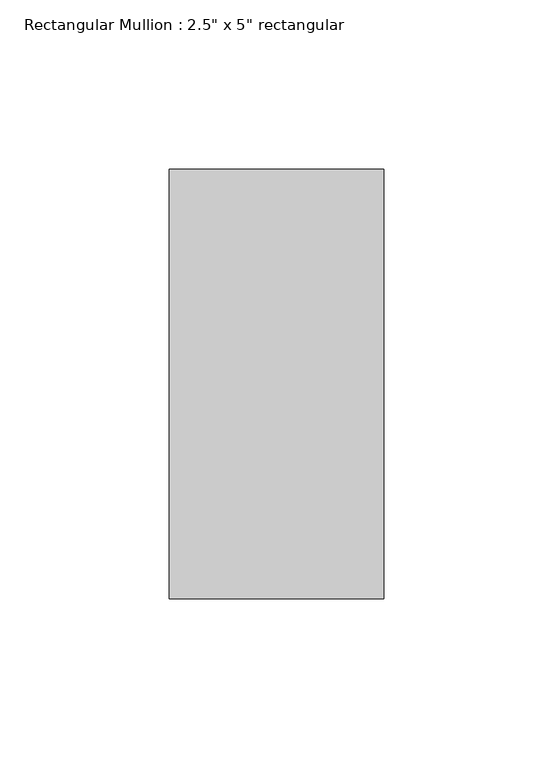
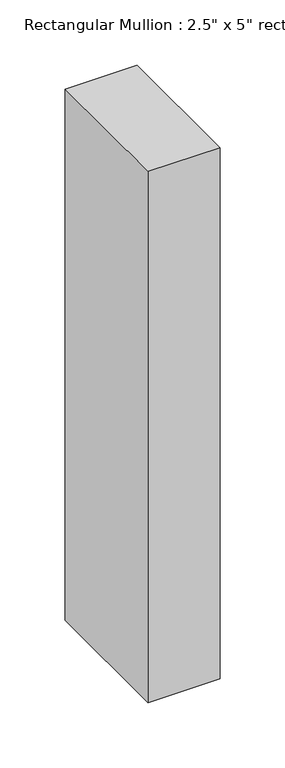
"""IFC4 building model written with IfcOpenShell, lengths in millimetres: member geometry."""

import ifcopenshell
import ifcopenshell.guid

model = None  # the IFC model being written
_history = None  # IfcOwnerHistory: only IFC2X3 demands one
_inside = {}  # id of a spatial element -> (the spatial element, [elements in it])
_under = {}  # id of a project, library or spatial element -> (it, [spatial elements below it])
_declared = {}  # id of a project -> (the project, [libraries it declares])
_typed = {}  # id of a type object -> (the type object, [elements of that type])
_made_of = {}  # id of a material, layer set ... -> (it, [elements and type objects made of it])


def new_model(schema):
    """Start an empty IFC model of exactly this schema.

    Asked for "IFC4X3", IfcOpenShell would pick the latest addendum, in which some entities
    have other attributes; the version numbers below select the first issue.
    IFC2X3 requires an IfcOwnerHistory on every rooted entity: one is made here for all.
    """
    global model, _history
    if schema == "IFC4X3":
        model = ifcopenshell.file(schema_version=(4, 3, 0, 0))
    else:
        model = ifcopenshell.file(schema=schema)
    _inside.clear()
    _under.clear()
    _declared.clear()
    _typed.clear()
    _made_of.clear()
    _history = None
    if model.schema == "IFC2X3":
        org = make("IfcOrganization", Name="unknown")
        user = make(
            "IfcPersonAndOrganization",
            ThePerson=make("IfcPerson", FamilyName="unknown"),
            TheOrganization=org,
        )
        app = make(
            "IfcApplication",
            ApplicationDeveloper=org,
            Version="unknown",
            ApplicationFullName="unknown",
            ApplicationIdentifier="unknown",
        )
        _history = make(
            "IfcOwnerHistory",
            OwningUser=user,
            OwningApplication=app,
            ChangeAction="ADDED",
            CreationDate=0,
        )
    return model


def make(cls, **values):
    """One entity of the class cls with the attributes given. An attribute that is None is left unset."""
    return model.create_entity(
        cls, **{name: value for name, value in values.items() if value is not None}
    )


def rooted(cls, **values):
    """An entity with a GlobalId (a new one), such as an element, a storey or a relation."""
    return make(cls, GlobalId=ifcopenshell.guid.new(), OwnerHistory=_history, **values)


def si_unit(unit_type, name, prefix=None):
    """IfcSIUnit, for example si_unit("LENGTHUNIT", "METRE", prefix="MILLI")."""
    return make("IfcSIUnit", UnitType=unit_type, Prefix=prefix, Name=name)


def assignment(units):
    """IfcUnitAssignment: the units of a project."""
    return None if units is None else make("IfcUnitAssignment", Units=units)


def point(xyz):
    """IfcCartesianPoint."""
    return None if xyz is None else make("IfcCartesianPoint", Coordinates=xyz)


def direction(xyz):
    """IfcDirection."""
    return None if xyz is None else make("IfcDirection", DirectionRatios=xyz)


def frame(location, z_axis=None, x_axis=None):
    """IfcAxis2Placement3D, a coordinate frame: its origin and axes. An axis left out is left unset."""
    return make(
        "IfcAxis2Placement3D",
        Location=point(location),
        Axis=direction(z_axis),
        RefDirection=direction(x_axis),
    )


def origin():
    """The frame at (0, 0, 0) with its axes left unset."""
    return frame((0.0, 0.0, 0.0))


def place(relative_to, where):
    """IfcLocalPlacement: puts the frame where relative to a parent placement (None: the world)."""
    return make(
        "IfcLocalPlacement", PlacementRelTo=relative_to, RelativePlacement=where
    )


def context(
    kind, dimensions, precision=None, world=None, true_north=None, identifier=None
):
    """IfcGeometricRepresentationContext, for example the 3D "Model" context."""
    return make(
        "IfcGeometricRepresentationContext",
        ContextIdentifier=identifier,
        ContextType=kind,
        CoordinateSpaceDimension=dimensions,
        Precision=precision,
        WorldCoordinateSystem=world,
        TrueNorth=true_north,
    )


def project(units=None, contexts=None):
    """IfcProject with its units and contexts."""
    return rooted(
        "IfcProject",
        Name="project",
        RepresentationContexts=contexts,
        UnitsInContext=assignment(units),
    )


def spatial(cls, under=None, at=None, **own):
    """A site, building, storey or space (cls), placed at a placement, below another one or the project."""
    s = rooted(cls, ObjectPlacement=at, **own)
    if under is not None:
        _under.setdefault(under.id(), (under, []))[1].append(s)
    return s


def polyline(points):
    """IfcPolyline through the points."""
    return make("IfcPolyline", Points=[point(p) for p in points])


def outline(outer, holes=None, kind="AREA"):
    """IfcArbitraryClosedProfileDef: a profile drawn as a closed curve; with holes, ...WithVoids."""
    if holes is None:
        return make("IfcArbitraryClosedProfileDef", ProfileType=kind, OuterCurve=outer)
    return make(
        "IfcArbitraryProfileDefWithVoids",
        ProfileType=kind,
        OuterCurve=outer,
        InnerCurves=holes,
    )


def extrude(swept, where, along, depth):
    """IfcExtrudedAreaSolid: the profile swept, set in the frame where, extruded along a direction by depth."""
    return make(
        "IfcExtrudedAreaSolid",
        SweptArea=swept,
        Position=where,
        ExtrudedDirection=direction(along),
        Depth=depth,
    )


def shape(context_of_items, identifier, shape_type, items):
    """IfcShapeRepresentation: the items that make up one representation, for example the "Body"."""
    return make(
        "IfcShapeRepresentation",
        ContextOfItems=context_of_items,
        RepresentationIdentifier=identifier,
        RepresentationType=shape_type,
        Items=items,
    )


def source(mapping_origin, context_of_items, identifier, shape_type, items):
    """IfcRepresentationMap: a shape defined once, which mapped items show again and again."""
    return make(
        "IfcRepresentationMap",
        MappingOrigin=mapping_origin,
        MappedRepresentation=shape(context_of_items, identifier, shape_type, items),
    )


def transform(
    local_origin,
    x_axis=None,
    y_axis=None,
    z_axis=None,
    scale=None,
    scale2=None,
    scale3=None,
    uniform=True,
):
    """IfcCartesianTransformationOperator3D, or its non-uniform kind. x_axis, y_axis, z_axis: its Axis1, 2, 3."""
    if uniform:
        return make(
            "IfcCartesianTransformationOperator3D",
            Axis1=direction(x_axis),
            Axis2=direction(y_axis),
            LocalOrigin=point(local_origin),
            Scale=scale,
            Axis3=direction(z_axis),
        )
    return make(
        "IfcCartesianTransformationOperator3DnonUniform",
        Axis1=direction(x_axis),
        Axis2=direction(y_axis),
        LocalOrigin=point(local_origin),
        Scale=scale,
        Axis3=direction(z_axis),
        Scale2=scale2,
        Scale3=scale3,
    )


def mapped(mapping_source, mapping_target):
    """IfcMappedItem: shows the shape of a source again, moved by a transform."""
    return make(
        "IfcMappedItem", MappingSource=mapping_source, MappingTarget=mapping_target
    )


def made_of(thing, what):
    """Note that an element or type object is made of a material, layer set ...; save() writes the relation."""
    if what is not None:
        _made_of.setdefault(what.id(), (what, []))[1].append(thing)
    return thing


def element(
    cls,
    number,
    at=None,
    inside=None,
    cuts=None,
    type_object=None,
    material=None,
    context=None,
    identifier="Body",
    shape_type=None,
    held_by="IfcProductDefinitionShape",
    body=None,
    shapes=None,
    **own,
):
    """One element of the class cls, such as IfcWall. Its Tag is "e" and its number.

    at: its placement. inside: the storey or other place that contains it. cuts: it is an
    opening in that element (IfcRelVoidsElement). A single representation is given by context,
    identifier, shape_type and body (its items); several are given by shapes. held_by: the class
    of the entity that holds the representations. save() writes the other relations.
    """
    e = rooted(cls, Tag="e%d" % number, ObjectPlacement=at, **own)
    if body is not None:
        shapes = [shape(context, identifier, shape_type, body)]
    if shapes is not None:
        e.Representation = make(held_by, Representations=shapes)
    if inside is not None:
        _inside.setdefault(inside.id(), (inside, []))[1].append(e)
    if cuts is not None:
        rooted(
            "IfcRelVoidsElement", RelatingBuildingElement=cuts, RelatedOpeningElement=e
        )
    if type_object is not None:
        _typed.setdefault(type_object.id(), (type_object, []))[1].append(e)
    return made_of(e, material)


def aggregate(whole, parts):
    """IfcRelAggregates: a whole, such as a stair, and the parts it consists of."""
    return rooted("IfcRelAggregates", RelatingObject=whole, RelatedObjects=parts)


def save(model, path):
    """Write the relations noted so far, then the file.

    IfcRelAggregates (storeys below a building ...), IfcRelContainedInSpatialStructure (elements
    in a storey), IfcRelDefinesByType, IfcRelAssociatesMaterial and IfcRelDeclares: one each for
    every whole, place, type object, material and project.
    """
    for whole, parts in _under.values():
        aggregate(whole, parts)
    for where, things in _inside.values():
        rooted(
            "IfcRelContainedInSpatialStructure",
            RelatedElements=things,
            RelatingStructure=where,
        )
    for kind, things in _typed.values():
        rooted("IfcRelDefinesByType", RelatedObjects=things, RelatingType=kind)
    for what, things in _made_of.values():
        rooted("IfcRelAssociatesMaterial", RelatedObjects=things, RelatingMaterial=what)
    for by, libraries in _declared.values():
        rooted("IfcRelDeclares", RelatingContext=by, RelatedDefinitions=libraries)
    model.write(path)


def member_00b05e59(model_context):
    return source(origin(), model_context, "Body", "SweptSolid", [
        extrude(outline(polyline([(0.0, 63.5), (0.0, -63.5), (-63.5, -63.5), (-63.5, 63.5), (0.0, 63.5)])), frame((0.0, 0.0, -496.6452541), z_axis=(0.0, 0.0, 1.0), x_axis=(1.0, 0.0, 0.0)), (0.0, 0.0, 1.0), 496.6452541),
    ])


if __name__ == "__main__":
    model = new_model("IFC4")
    model_context = context("Model", 3, world=origin())
    ifc_project = project(units=[si_unit("LENGTHUNIT", "METRE", prefix="MILLI")], contexts=[model_context])
    site = spatial("IfcSite", under=ifc_project)
    building = spatial("IfcBuilding", under=site)
    placement = place(None, origin())
    member_shape = member_00b05e59(model_context)
    element("IfcMember", 1, ObjectType="Rectangular Mullion : 2.5\" x 5\" rectangular", at=placement, inside=building, context=model_context, shape_type="MappedRepresentation", body=[
        mapped(member_shape, transform((0.0, 0.0, 0.0), x_axis=(1.0, 0.0, 0.0), y_axis=(0.0, 1.0, 0.0), z_axis=(0.0, 0.0, 1.0))),
    ])
    save(model, "model.ifc")
